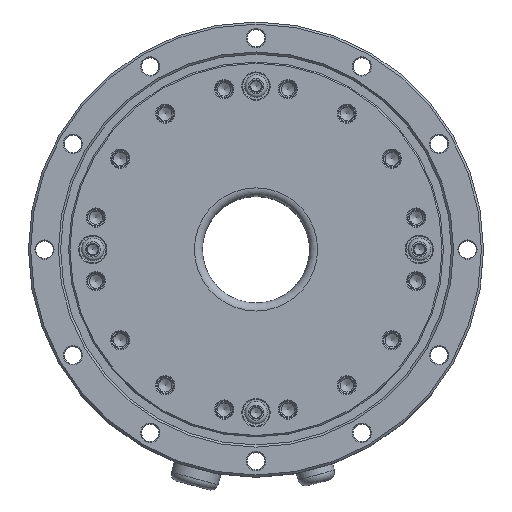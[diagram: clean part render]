
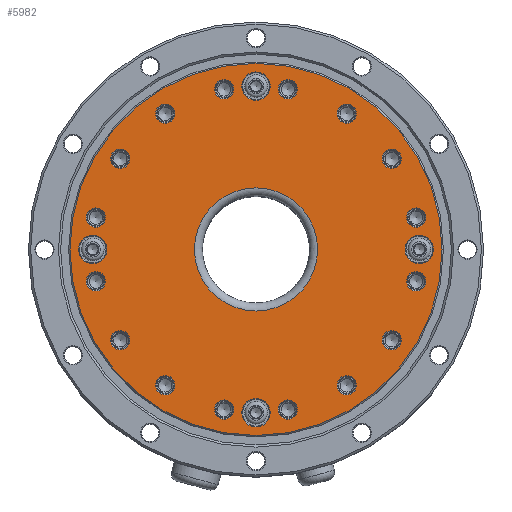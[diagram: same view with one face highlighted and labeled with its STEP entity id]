
A CAD part, top view. The second image highlights one B-rep face of the part: STEP entity #5982.
In plain terms, the highlighted planar face has unit normal (0, 0, 1).
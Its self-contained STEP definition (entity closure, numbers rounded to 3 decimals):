
#5982=ADVANCED_FACE('',(#9059,#9060,#9061,#9062,#9063,#9064,#9065,#9066,
#9067,#9068,#9069,#9070,#9071,#9072,#9073,#9074,#9075,#9076,#9077,#9078,
#9079,#9080),#7271,.T.);
#7271=PLANE('',#28459);
#9059=FACE_BOUND('',#12022,.T.);
#9060=FACE_BOUND('',#12023,.T.);
#9061=FACE_BOUND('',#12024,.T.);
#9062=FACE_BOUND('',#12025,.T.);
#9063=FACE_BOUND('',#12026,.T.);
#9064=FACE_BOUND('',#12027,.T.);
#9065=FACE_BOUND('',#12028,.T.);
#9066=FACE_BOUND('',#12029,.T.);
#9067=FACE_BOUND('',#12030,.T.);
#9068=FACE_BOUND('',#12031,.T.);
#9069=FACE_BOUND('',#12032,.T.);
#9070=FACE_BOUND('',#12033,.T.);
#9071=FACE_BOUND('',#12034,.T.);
#9072=FACE_BOUND('',#12035,.T.);
#9073=FACE_BOUND('',#12036,.T.);
#9074=FACE_BOUND('',#12037,.T.);
#9075=FACE_BOUND('',#12038,.T.);
#9076=FACE_BOUND('',#12039,.T.);
#9077=FACE_BOUND('',#12040,.T.);
#9078=FACE_BOUND('',#12041,.T.);
#9079=FACE_BOUND('',#12042,.T.);
#9080=FACE_BOUND('',#12043,.T.);
#12022=EDGE_LOOP('',(#16405));
#12023=EDGE_LOOP('',(#16406));
#12024=EDGE_LOOP('',(#16407));
#12025=EDGE_LOOP('',(#16408));
#12026=EDGE_LOOP('',(#16409));
#12027=EDGE_LOOP('',(#16410));
#12028=EDGE_LOOP('',(#16411));
#12029=EDGE_LOOP('',(#16412));
#12030=EDGE_LOOP('',(#16413));
#12031=EDGE_LOOP('',(#16414));
#12032=EDGE_LOOP('',(#16415));
#12033=EDGE_LOOP('',(#16416));
#12034=EDGE_LOOP('',(#16417));
#12035=EDGE_LOOP('',(#16418));
#12036=EDGE_LOOP('',(#16419));
#12037=EDGE_LOOP('',(#16420));
#12038=EDGE_LOOP('',(#16421));
#12039=EDGE_LOOP('',(#16422));
#12040=EDGE_LOOP('',(#16423));
#12041=EDGE_LOOP('',(#16424));
#12042=EDGE_LOOP('',(#16425));
#12043=EDGE_LOOP('',(#16426));
#16405=ORIENTED_EDGE('',*,*,#23183,.T.);
#16406=ORIENTED_EDGE('',*,*,#23184,.T.);
#16407=ORIENTED_EDGE('',*,*,#23185,.T.);
#16408=ORIENTED_EDGE('',*,*,#23186,.T.);
#16409=ORIENTED_EDGE('',*,*,#23187,.T.);
#16410=ORIENTED_EDGE('',*,*,#23188,.T.);
#16411=ORIENTED_EDGE('',*,*,#23189,.T.);
#16412=ORIENTED_EDGE('',*,*,#23190,.T.);
#16413=ORIENTED_EDGE('',*,*,#23191,.T.);
#16414=ORIENTED_EDGE('',*,*,#23192,.T.);
#16415=ORIENTED_EDGE('',*,*,#23193,.T.);
#16416=ORIENTED_EDGE('',*,*,#23194,.T.);
#16417=ORIENTED_EDGE('',*,*,#23195,.T.);
#16418=ORIENTED_EDGE('',*,*,#23196,.T.);
#16419=ORIENTED_EDGE('',*,*,#23197,.T.);
#16420=ORIENTED_EDGE('',*,*,#23198,.T.);
#16421=ORIENTED_EDGE('',*,*,#23199,.T.);
#16422=ORIENTED_EDGE('',*,*,#23200,.T.);
#16423=ORIENTED_EDGE('',*,*,#23201,.T.);
#16424=ORIENTED_EDGE('',*,*,#23202,.T.);
#16425=ORIENTED_EDGE('',*,*,#23203,.T.);
#16426=ORIENTED_EDGE('',*,*,#23204,.T.);
#20659=VERTEX_POINT('',#42675);
#20660=VERTEX_POINT('',#42677);
#20661=VERTEX_POINT('',#42679);
#20662=VERTEX_POINT('',#42681);
#20663=VERTEX_POINT('',#42683);
#20664=VERTEX_POINT('',#42685);
#20665=VERTEX_POINT('',#42687);
#20666=VERTEX_POINT('',#42689);
#20667=VERTEX_POINT('',#42691);
#20668=VERTEX_POINT('',#42693);
#20669=VERTEX_POINT('',#42695);
#20670=VERTEX_POINT('',#42697);
#20671=VERTEX_POINT('',#42699);
#20672=VERTEX_POINT('',#42701);
#20673=VERTEX_POINT('',#42703);
#20674=VERTEX_POINT('',#42705);
#20675=VERTEX_POINT('',#42707);
#20676=VERTEX_POINT('',#42709);
#20677=VERTEX_POINT('',#42711);
#20678=VERTEX_POINT('',#42713);
#20679=VERTEX_POINT('',#42715);
#20680=VERTEX_POINT('',#42717);
#23183=EDGE_CURVE('',#20659,#20659,#25669,.T.);
#23184=EDGE_CURVE('',#20660,#20660,#25670,.T.);
#23185=EDGE_CURVE('',#20661,#20661,#25671,.T.);
#23186=EDGE_CURVE('',#20662,#20662,#25672,.T.);
#23187=EDGE_CURVE('',#20663,#20663,#25673,.T.);
#23188=EDGE_CURVE('',#20664,#20664,#25674,.T.);
#23189=EDGE_CURVE('',#20665,#20665,#25675,.T.);
#23190=EDGE_CURVE('',#20666,#20666,#25676,.T.);
#23191=EDGE_CURVE('',#20667,#20667,#25677,.T.);
#23192=EDGE_CURVE('',#20668,#20668,#25678,.T.);
#23193=EDGE_CURVE('',#20669,#20669,#25679,.T.);
#23194=EDGE_CURVE('',#20670,#20670,#25680,.T.);
#23195=EDGE_CURVE('',#20671,#20671,#25681,.T.);
#23196=EDGE_CURVE('',#20672,#20672,#25682,.T.);
#23197=EDGE_CURVE('',#20673,#20673,#25683,.T.);
#23198=EDGE_CURVE('',#20674,#20674,#25684,.T.);
#23199=EDGE_CURVE('',#20675,#20675,#25685,.T.);
#23200=EDGE_CURVE('',#20676,#20676,#25686,.T.);
#23201=EDGE_CURVE('',#20677,#20677,#25687,.T.);
#23202=EDGE_CURVE('',#20678,#20678,#25688,.T.);
#23203=EDGE_CURVE('',#20679,#20679,#25689,.T.);
#23204=EDGE_CURVE('',#20680,#20680,#25690,.T.);
#25669=CIRCLE('',#28437,5.3);
#25670=CIRCLE('',#28438,5.3);
#25671=CIRCLE('',#28439,5.3);
#25672=CIRCLE('',#28440,5.3);
#25673=CIRCLE('',#28441,3.6);
#25674=CIRCLE('',#28442,3.6);
#25675=CIRCLE('',#28443,3.6);
#25676=CIRCLE('',#28444,3.6);
#25677=CIRCLE('',#28445,3.6);
#25678=CIRCLE('',#28446,3.6);
#25679=CIRCLE('',#28447,3.6);
#25680=CIRCLE('',#28448,3.6);
#25681=CIRCLE('',#28449,3.6);
#25682=CIRCLE('',#28450,3.6);
#25683=CIRCLE('',#28451,3.6);
#25684=CIRCLE('',#28452,3.6);
#25685=CIRCLE('',#28453,3.6);
#25686=CIRCLE('',#28454,3.6);
#25687=CIRCLE('',#28455,3.6);
#25688=CIRCLE('',#28456,3.6);
#25689=CIRCLE('',#28457,69.5);
#25690=CIRCLE('',#28458,23.);
#28437=AXIS2_PLACEMENT_3D('',#42674,#34438,#34439);
#28438=AXIS2_PLACEMENT_3D('',#42676,#34440,#34441);
#28439=AXIS2_PLACEMENT_3D('',#42678,#34442,#34443);
#28440=AXIS2_PLACEMENT_3D('',#42680,#34444,#34445);
#28441=AXIS2_PLACEMENT_3D('',#42682,#34446,#34447);
#28442=AXIS2_PLACEMENT_3D('',#42684,#34448,#34449);
#28443=AXIS2_PLACEMENT_3D('',#42686,#34450,#34451);
#28444=AXIS2_PLACEMENT_3D('',#42688,#34452,#34453);
#28445=AXIS2_PLACEMENT_3D('',#42690,#34454,#34455);
#28446=AXIS2_PLACEMENT_3D('',#42692,#34456,#34457);
#28447=AXIS2_PLACEMENT_3D('',#42694,#34458,#34459);
#28448=AXIS2_PLACEMENT_3D('',#42696,#34460,#34461);
#28449=AXIS2_PLACEMENT_3D('',#42698,#34462,#34463);
#28450=AXIS2_PLACEMENT_3D('',#42700,#34464,#34465);
#28451=AXIS2_PLACEMENT_3D('',#42702,#34466,#34467);
#28452=AXIS2_PLACEMENT_3D('',#42704,#34468,#34469);
#28453=AXIS2_PLACEMENT_3D('',#42706,#34470,#34471);
#28454=AXIS2_PLACEMENT_3D('',#42708,#34472,#34473);
#28455=AXIS2_PLACEMENT_3D('',#42710,#34474,#34475);
#28456=AXIS2_PLACEMENT_3D('',#42712,#34476,#34477);
#28457=AXIS2_PLACEMENT_3D('',#42714,#34478,#34479);
#28458=AXIS2_PLACEMENT_3D('',#42716,#34480,#34481);
#28459=AXIS2_PLACEMENT_3D('',#42718,#34482,#34483);
#34438=DIRECTION('',(0.,0.,-1.));
#34439=DIRECTION('',(1.,0.,0.));
#34440=DIRECTION('',(0.,0.,-1.));
#34441=DIRECTION('',(1.,0.,0.));
#34442=DIRECTION('',(0.,0.,-1.));
#34443=DIRECTION('',(1.,0.,0.));
#34444=DIRECTION('',(0.,0.,-1.));
#34445=DIRECTION('',(1.,0.,0.));
#34446=DIRECTION('',(0.,0.,-1.));
#34447=DIRECTION('',(1.,0.,0.));
#34448=DIRECTION('',(0.,0.,-1.));
#34449=DIRECTION('',(1.,0.,0.));
#34450=DIRECTION('',(0.,0.,-1.));
#34451=DIRECTION('',(1.,0.,0.));
#34452=DIRECTION('',(0.,0.,-1.));
#34453=DIRECTION('',(1.,0.,0.));
#34454=DIRECTION('',(0.,0.,-1.));
#34455=DIRECTION('',(1.,0.,0.));
#34456=DIRECTION('',(0.,0.,-1.));
#34457=DIRECTION('',(1.,0.,0.));
#34458=DIRECTION('',(0.,0.,-1.));
#34459=DIRECTION('',(1.,0.,0.));
#34460=DIRECTION('',(0.,0.,-1.));
#34461=DIRECTION('',(1.,0.,0.));
#34462=DIRECTION('',(0.,0.,-1.));
#34463=DIRECTION('',(1.,0.,0.));
#34464=DIRECTION('',(0.,0.,-1.));
#34465=DIRECTION('',(1.,0.,0.));
#34466=DIRECTION('',(0.,0.,-1.));
#34467=DIRECTION('',(1.,0.,0.));
#34468=DIRECTION('',(0.,0.,-1.));
#34469=DIRECTION('',(1.,0.,0.));
#34470=DIRECTION('',(0.,0.,-1.));
#34471=DIRECTION('',(1.,0.,0.));
#34472=DIRECTION('',(0.,0.,-1.));
#34473=DIRECTION('',(1.,0.,0.));
#34474=DIRECTION('',(0.,0.,-1.));
#34475=DIRECTION('',(1.,0.,0.));
#34476=DIRECTION('',(0.,0.,-1.));
#34477=DIRECTION('',(1.,0.,0.));
#34478=DIRECTION('',(0.,0.,1.));
#34479=DIRECTION('',(1.,0.,0.));
#34480=DIRECTION('',(0.,0.,-1.));
#34481=DIRECTION('',(1.,0.,0.));
#34482=DIRECTION('',(0.,0.,1.));
#34483=DIRECTION('',(-1.,0.,0.));
#42674=CARTESIAN_POINT('',(0.,61.,73.25));
#42675=CARTESIAN_POINT('',(5.3,61.,73.25));
#42676=CARTESIAN_POINT('',(-61.,0.,73.25));
#42677=CARTESIAN_POINT('',(-55.7,0.,73.25));
#42678=CARTESIAN_POINT('',(0.,-61.,73.25));
#42679=CARTESIAN_POINT('',(5.3,-61.,73.25));
#42680=CARTESIAN_POINT('',(61.,0.,73.25));
#42681=CARTESIAN_POINT('',(66.3,0.,73.25));
#42682=CARTESIAN_POINT('',(50.72,33.89,73.25));
#42683=CARTESIAN_POINT('',(54.32,33.89,73.25));
#42684=CARTESIAN_POINT('',(33.89,50.72,73.25));
#42685=CARTESIAN_POINT('',(37.49,50.72,73.25));
#42686=CARTESIAN_POINT('',(11.901,59.828,73.25));
#42687=CARTESIAN_POINT('',(15.501,59.828,73.25));
#42688=CARTESIAN_POINT('',(-11.901,59.828,73.25));
#42689=CARTESIAN_POINT('',(-8.301,59.828,73.25));
#42690=CARTESIAN_POINT('',(-33.89,50.72,73.25));
#42691=CARTESIAN_POINT('',(-30.29,50.72,73.25));
#42692=CARTESIAN_POINT('',(-50.72,33.89,73.25));
#42693=CARTESIAN_POINT('',(-47.12,33.89,73.25));
#42694=CARTESIAN_POINT('',(-59.828,11.901,73.25));
#42695=CARTESIAN_POINT('',(-56.228,11.901,73.25));
#42696=CARTESIAN_POINT('',(-59.828,-11.901,73.25));
#42697=CARTESIAN_POINT('',(-56.228,-11.901,73.25));
#42698=CARTESIAN_POINT('',(-50.72,-33.89,73.25));
#42699=CARTESIAN_POINT('',(-47.12,-33.89,73.25));
#42700=CARTESIAN_POINT('',(-33.89,-50.72,73.25));
#42701=CARTESIAN_POINT('',(-30.29,-50.72,73.25));
#42702=CARTESIAN_POINT('',(-11.901,-59.828,73.25));
#42703=CARTESIAN_POINT('',(-8.301,-59.828,73.25));
#42704=CARTESIAN_POINT('',(11.901,-59.828,73.25));
#42705=CARTESIAN_POINT('',(15.501,-59.828,73.25));
#42706=CARTESIAN_POINT('',(33.89,-50.72,73.25));
#42707=CARTESIAN_POINT('',(37.49,-50.72,73.25));
#42708=CARTESIAN_POINT('',(50.72,-33.89,73.25));
#42709=CARTESIAN_POINT('',(54.32,-33.89,73.25));
#42710=CARTESIAN_POINT('',(59.828,-11.901,73.25));
#42711=CARTESIAN_POINT('',(63.428,-11.901,73.25));
#42712=CARTESIAN_POINT('',(59.828,11.901,73.25));
#42713=CARTESIAN_POINT('',(63.428,11.901,73.25));
#42714=CARTESIAN_POINT('',(0.,0.,73.25));
#42715=CARTESIAN_POINT('',(69.5,0.,73.25));
#42716=CARTESIAN_POINT('',(0.,0.,73.25));
#42717=CARTESIAN_POINT('',(23.,0.,73.25));
#42718=CARTESIAN_POINT('',(0.,70.,73.25));
